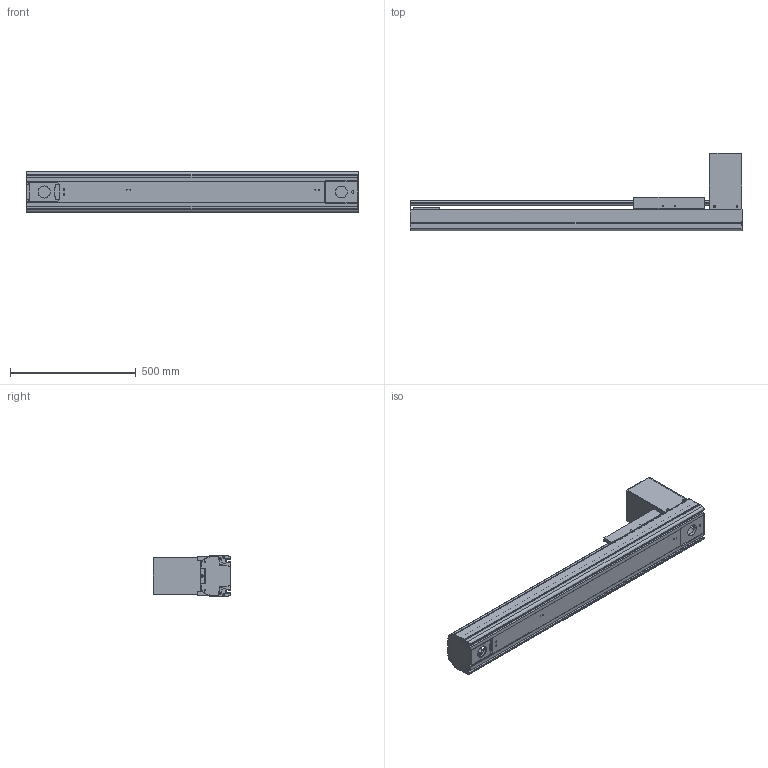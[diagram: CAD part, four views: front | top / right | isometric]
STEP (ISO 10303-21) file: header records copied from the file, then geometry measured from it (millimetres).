
FILE_DESCRIPTION((''),'2;1');
FILE_NAME('BE50G-BT-L19N-75_IGS_PRT','2017-06-18T',(' '),(''),'PRO/ENGINEER BY PARAMETRIC TECHNOLOGY CORPORATION, 2015030','PRO/ENGINEER BY PARAMETRIC TECHNOLOGY CORPORATION, 2015030','');
FILE_SCHEMA(('CONFIG_CONTROL_DESIGN'));
Length unit declared in the file: millimetre
Products named in the file (1): BE50G-BT-L19N-75_IGS_PRT
Bounding box: 1320 x 309 x 160 mm (x, y, z)
Volume: 6998897.7 mm3; surface area: 2598784.7 mm2
Topology: 2 solids, 137 shells, 1858 faces, 5126 edges, 3377 vertices
Faces by surface type: cylinder 907, plane 782, cone 126, sphere 23, torus 20
Entity records: 61395 total; most frequent: CARTESIAN_POINT 13313, DIRECTION 10168, ORIENTED_EDGE 9616, EDGE_CURVE 5050, AXIS2_PLACEMENT_3D 3782, VERTEX_POINT 3376, VECTOR 2604, LINE 2604
